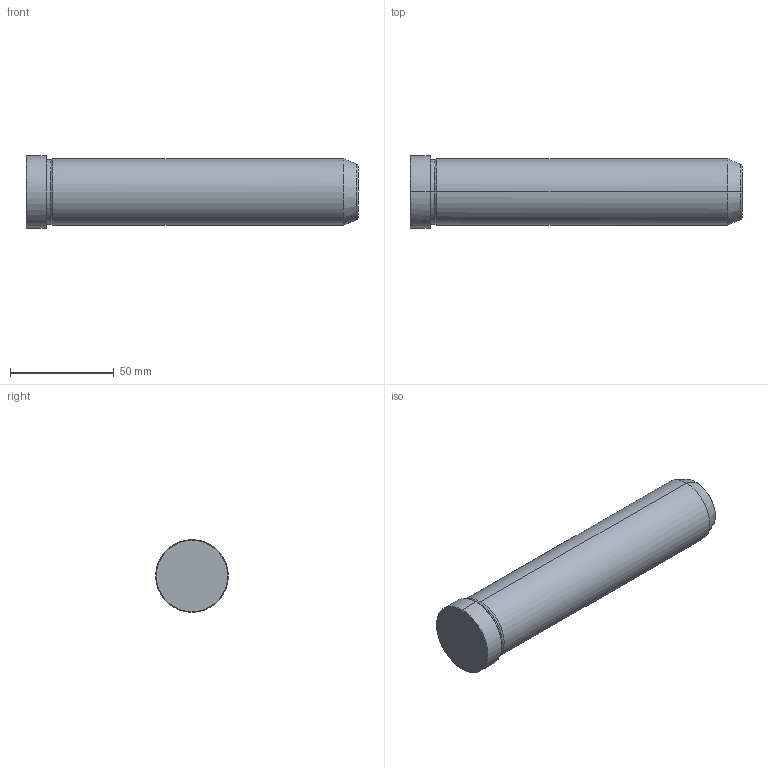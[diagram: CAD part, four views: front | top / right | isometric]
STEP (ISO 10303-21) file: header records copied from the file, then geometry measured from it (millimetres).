
FILE_DESCRIPTION(('CATIA V5 STEP Exchange'),'2;1');
FILE_NAME('C:\Users\Utente\Desktop\IO LAVORO\3D X SITO CF\X SITO\PLASTICA\549\549-32X160.stp','2021-12-18T08:07:03+00:00',('none'),('none'),'CATIA Version 5 Release 20 GA (IN-10)','CATIA V5 STEP AP203','none');
FILE_SCHEMA(('CONFIG_CONTROL_DESIGN'));
Length unit declared in the file: millimetre
Products named in the file (1): 549-32X160
Bounding box: 160 x 35 x 35 mm (x, y, z)
Volume: 129184.8 mm3; surface area: 17835 mm2
Topology: 1 solids, 1 shells, 19 faces, 56 edges, 40 vertices
Faces by surface type: cone 8, cylinder 6, plane 3, torus 2
Entity records: 736 total; most frequent: CARTESIAN_POINT 192, ORIENTED_EDGE 112, DIRECTION 86, EDGE_CURVE 56, AXIS2_PLACEMENT_3D 54, VERTEX_POINT 40, CIRCLE 34, EDGE_LOOP 20
